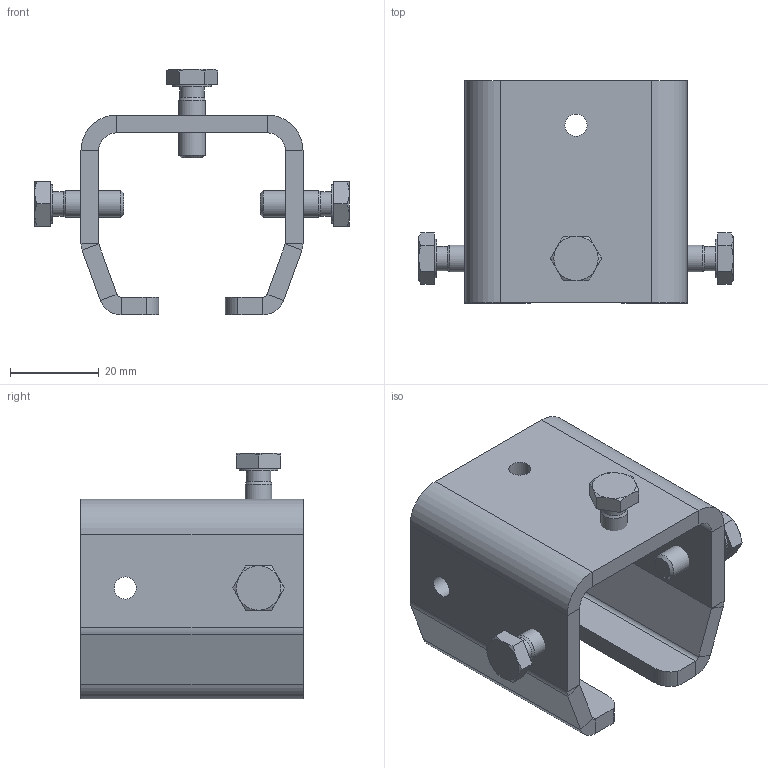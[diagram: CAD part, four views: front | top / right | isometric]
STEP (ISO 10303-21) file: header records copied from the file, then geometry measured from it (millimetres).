
FILE_DESCRIPTION(/* description */ ('Schweissmuffe Nr.1'),/* implementation_level */ '2;1');
FILE_NAME(/* name */ 'D:\Public\STP\010335210-TP.stp',/* time_stamp */ '2020-05-13T14:05:40+02:00',/* author */ ('O. Loukota'),/* organization */ (''),/* preprocessor_version */ 'ST-DEVELOPER v17.2',/* originating_system */ 'Autodesk Inventor 2019',/* authorisation */ '');
FILE_SCHEMA (('AUTOMOTIVE_DESIGN { 1 0 10303 214 3 1 1 }'));
Length unit declared in the file: millimetre
Products named in the file (3): 010335210; 335140010; DIN EN ISO 4017 - M6  x 16
Assembly tree (4 placements, depth 2):
  010335210
    335140010
    DIN EN ISO 4017 - M6  x 16  x3
Bounding box: 70.77 x 50 x 55.39 mm (x, y, z)
Volume: 30697.7 mm3; surface area: 17899.4 mm2
Topology: 4 solids, 4 shells, 127 faces, 285 edges, 172 vertices
Faces by surface type: plane 72, cylinder 31, cone 24
Full cylindrical faces by diameter (mm): 4.917 x3, 5 x3, 5.459 x3, 6 x3, 8.7 x3
Entity records: 2447 total; most frequent: DIRECTION 427, CARTESIAN_POINT 415, ORIENTED_EDGE 378, EDGE_CURVE 189, AXIS2_PLACEMENT_3D 158, LINE 111, VECTOR 111, VERTEX_POINT 110
